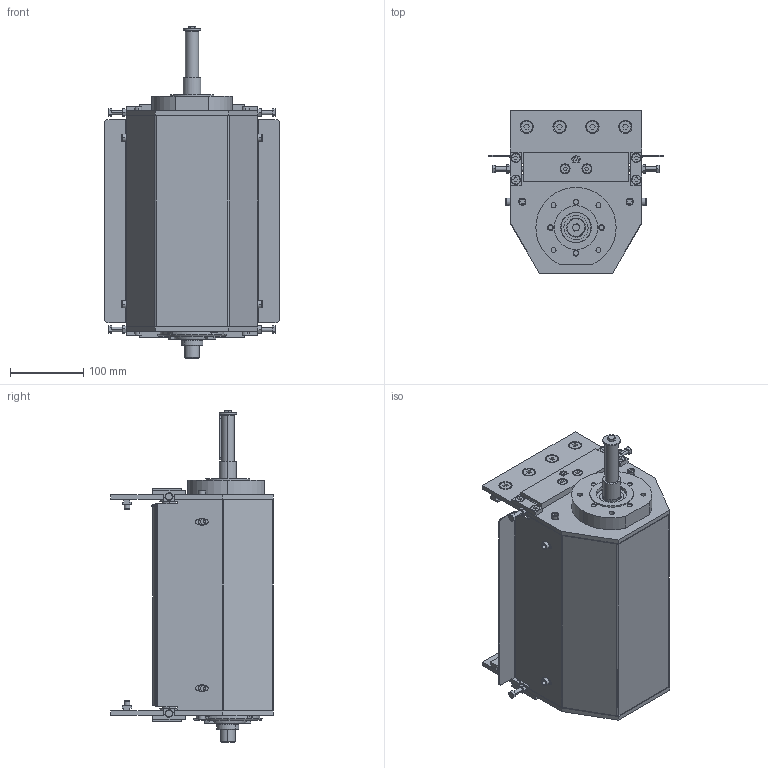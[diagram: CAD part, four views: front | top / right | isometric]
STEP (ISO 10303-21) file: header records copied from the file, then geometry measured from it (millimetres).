
FILE_DESCRIPTION (( 'STEP AP203' ), '1' );
FILE_NAME ('084.095.KCS.44.255.STEP', '2016-01-11T16:22:28', ( '' ), ( '' ), 'SwSTEP 2.0', 'SolidWorks 2016', '' );
FILE_SCHEMA (( 'CONFIG_CONTROL_DESIGN' ));
Length unit declared in the file: millimetre
Products named in the file (1): 084.095.KCS.44.255
Bounding box: 240 x 223 x 454.5 mm (x, y, z)
Volume: 2512898.3 mm3; surface area: 1339169.2 mm2
Topology: 94 solids, 94 shells, 2196 faces, 5266 edges, 3364 vertices
Faces by surface type: plane 1052, cylinder 701, cone 341, torus 84, sphere 18
Entity records: 64428 total; most frequent: CARTESIAN_POINT 11580, DIRECTION 11453, ORIENTED_EDGE 10502, EDGE_CURVE 5251, AXIS2_PLACEMENT_3D 4206, VERTEX_POINT 3357, LINE 3041, VECTOR 3041
